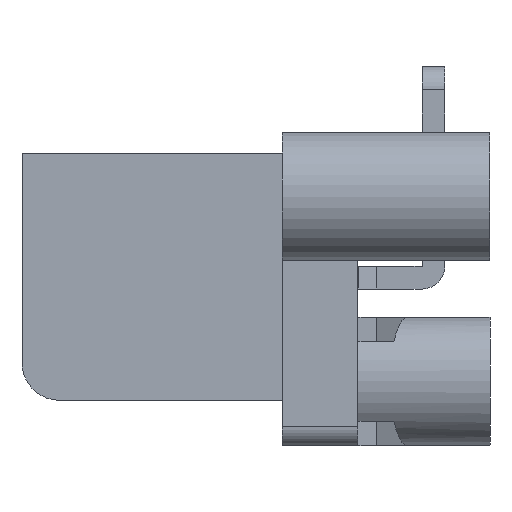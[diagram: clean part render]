
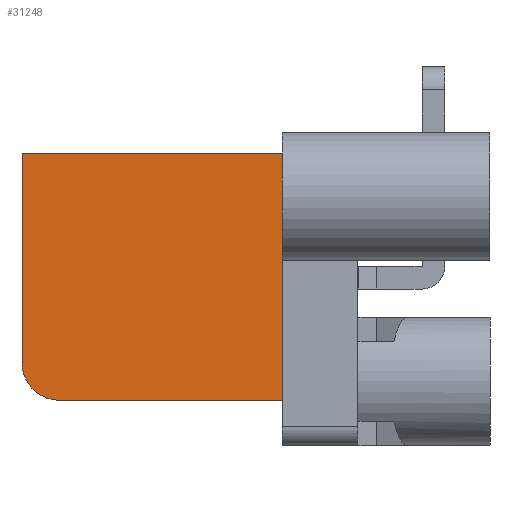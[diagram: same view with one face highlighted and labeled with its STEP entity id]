
A CAD part, left-side view. The second image highlights one B-rep face of the part: STEP entity #31248.
In plain terms, the highlighted planar face has unit normal (-1, 0, 0).
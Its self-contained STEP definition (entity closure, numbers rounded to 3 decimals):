
#10498=DIRECTION('',(0.,-1.,0.));
#10499=VECTOR('',#10498,11.8);
#10500=CARTESIAN_POINT('',(9.3,22.8,-14.15));
#10501=LINE('',#10500,#10499);
#10502=CARTESIAN_POINT('',(9.3,22.8,-12.15));
#10503=DIRECTION('',(-1.,0.,0.));
#10504=DIRECTION('',(0.,1.,0.));
#10505=AXIS2_PLACEMENT_3D('',#10502,#10503,#10504);
#10507=DIRECTION('',(0.,0.,-1.));
#10508=VECTOR('',#10507,11.1);
#10509=CARTESIAN_POINT('',(9.3,24.8,-1.05));
#10510=LINE('',#10509,#10508);
#10511=DIRECTION('',(0.,1.,0.));
#10512=VECTOR('',#10511,13.8);
#10513=CARTESIAN_POINT('',(9.3,11.,-1.05));
#10514=LINE('',#10513,#10512);
#10515=DIRECTION('',(0.,0.,1.));
#10516=VECTOR('',#10515,13.1);
#10517=CARTESIAN_POINT('',(9.3,11.,-14.15));
#10518=LINE('',#10517,#10516);
#12864=CARTESIAN_POINT('',(9.3,11.,-14.15));
#12865=CARTESIAN_POINT('',(9.3,11.,-1.05));
#12866=VERTEX_POINT('',#12864);
#12867=VERTEX_POINT('',#12865);
#12878=CARTESIAN_POINT('',(9.3,22.8,-14.15));
#12879=VERTEX_POINT('',#12878);
#12882=CARTESIAN_POINT('',(9.3,24.8,-1.05));
#12883=CARTESIAN_POINT('',(9.3,24.8,-12.15));
#12884=VERTEX_POINT('',#12882);
#12885=VERTEX_POINT('',#12883);
#31236=CARTESIAN_POINT('',(9.3,11.,-14.15));
#31237=DIRECTION('',(-1.,0.,0.));
#31238=DIRECTION('',(0.,0.,1.));
#31239=AXIS2_PLACEMENT_3D('',#31236,#31237,#31238);
#31240=PLANE('',#31239);
#31241=ORIENTED_EDGE('',*,*,#16444,.F.);
#31242=ORIENTED_EDGE('',*,*,#31229,.F.);
#31243=ORIENTED_EDGE('',*,*,#16343,.F.);
#31244=ORIENTED_EDGE('',*,*,#16304,.F.);
#31245=ORIENTED_EDGE('',*,*,#15602,.F.);
#31246=EDGE_LOOP('',(#31241,#31242,#31243,#31244,#31245));
#31247=FACE_OUTER_BOUND('',#31246,.F.);
#31248=ADVANCED_FACE('',(#31247),#31240,.T.);
#10506=CIRCLE('',#10505,2.);
#15602=EDGE_CURVE('',#12866,#12867,#10518,.T.);
#16304=EDGE_CURVE('',#12867,#12884,#10514,.T.);
#16343=EDGE_CURVE('',#12884,#12885,#10510,.T.);
#16444=EDGE_CURVE('',#12879,#12866,#10501,.T.);
#31229=EDGE_CURVE('',#12885,#12879,#10506,.T.);
